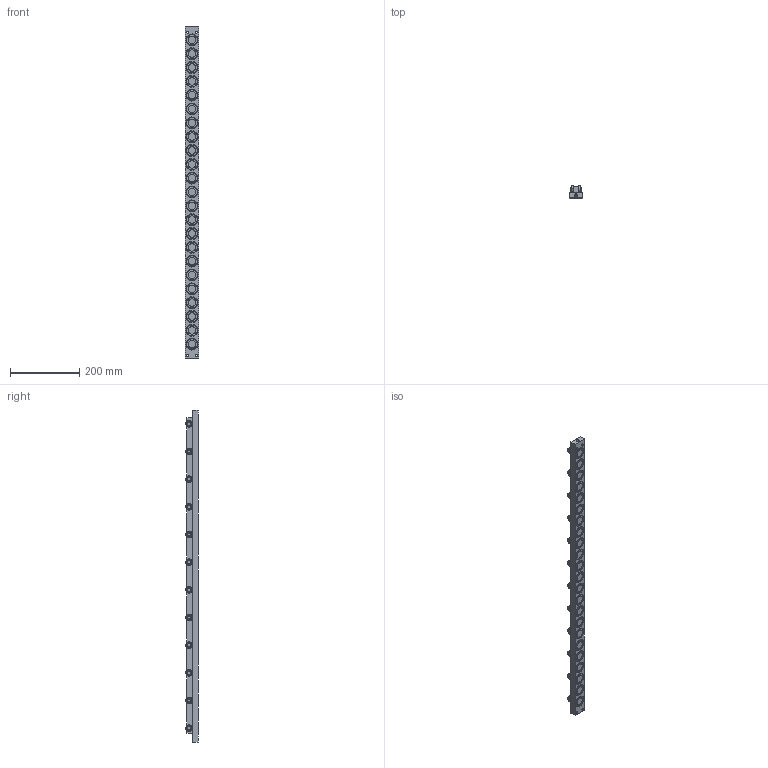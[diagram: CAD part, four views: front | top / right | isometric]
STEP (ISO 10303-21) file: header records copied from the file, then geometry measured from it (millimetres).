
FILE_DESCRIPTION (( 'STEP AP203' ), '1' );
FILE_NAME ('PVLR30S-12.STEP', '2015-12-22T06:35:05', ( '' ), ( '' ), 'SwSTEP 2.0', 'SolidWorks 2013', '' );
FILE_SCHEMA (( 'CONFIG_CONTROL_DESIGN' ));
Length unit declared in the file: millimetre
Products named in the file (1): PVLR30S-12
Bounding box: 38 x 36 x 960 mm (x, y, z)
Volume: 798814.2 mm3; surface area: 167864 mm2
Topology: 3 solids, 3 shells, 1297 faces, 3227 edges, 2129 vertices
Faces by surface type: cylinder 778, plane 507, cone 12
Entity records: 39390 total; most frequent: DIRECTION 7523, CARTESIAN_POINT 6648, ORIENTED_EDGE 6442, EDGE_CURVE 3221, AXIS2_PLACEMENT_3D 3004, VERTEX_POINT 2129, CIRCLE 1706, LINE 1515
